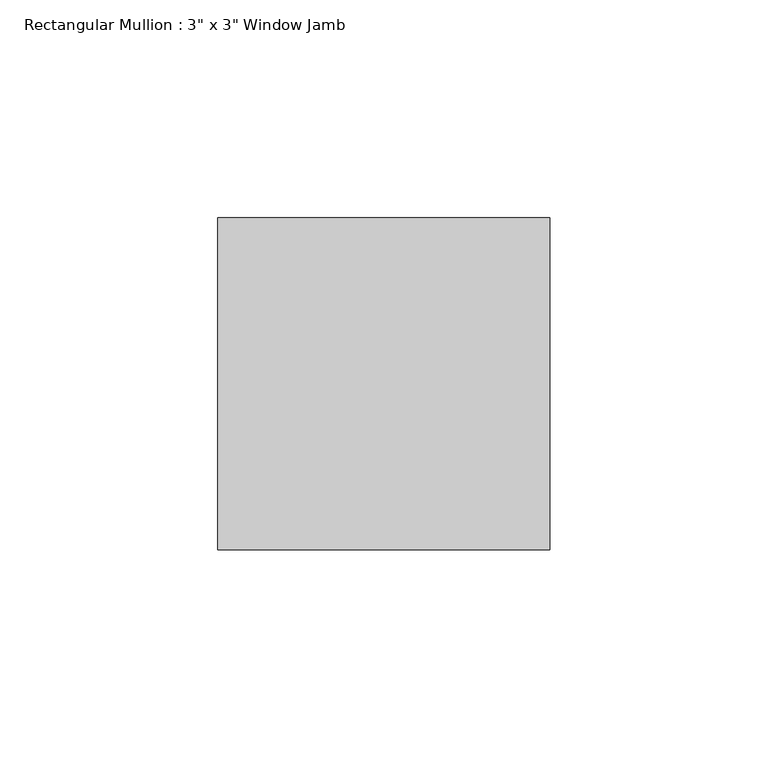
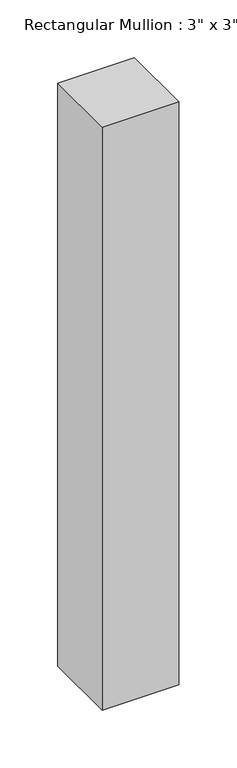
"""IFC4 building model written with IfcOpenShell, lengths in millimetres: member geometry."""

from ifc_helpers import new_model, si_unit, frame, origin, place, context, project, spatial, polyline, outline, extrude, source, transform, mapped, element, save


def member_07c2242c(model_context):
    return source(origin(), model_context, "Body", "SweptSolid", [
        extrude(outline(polyline([(0.0, 50.8), (0.0, -25.4), (-76.2, -25.4), (-76.2, 50.8), (0.0, 50.8)])), frame((0.0, 0.0, -613.8456956), z_axis=(0.0, 0.0, 1.0), x_axis=(1.0, 0.0, 0.0)), (0.0, 0.0, 1.0), 613.8456956),
    ])


if __name__ == "__main__":
    model = new_model("IFC4")
    model_context = context("Model", 3, world=origin())
    ifc_project = project(units=[si_unit("LENGTHUNIT", "METRE", prefix="MILLI")], contexts=[model_context])
    site = spatial("IfcSite", under=ifc_project)
    building = spatial("IfcBuilding", under=site)
    placement = place(None, origin())
    member_shape = member_07c2242c(model_context)
    element("IfcMember", 1, ObjectType="Rectangular Mullion : 3\" x 3\" Window Jamb", at=placement, inside=building, context=model_context, shape_type="MappedRepresentation", body=[
        mapped(member_shape, transform((0.0, 0.0, 0.0), x_axis=(1.0, 0.0, 0.0), y_axis=(0.0, 1.0, 0.0), z_axis=(0.0, 0.0, 1.0))),
    ])
    save(model, "model.ifc")
